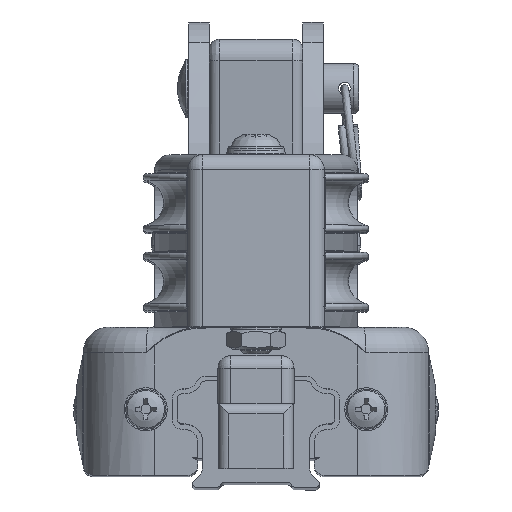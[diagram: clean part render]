
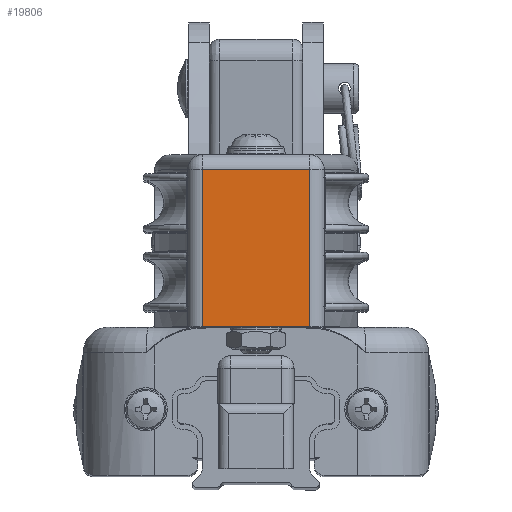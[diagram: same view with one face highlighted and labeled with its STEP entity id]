
A CAD part, top view. The second image highlights one B-rep face of the part: STEP entity #19806.
In plain terms, the highlighted planar face has unit normal (0, 0, 1).
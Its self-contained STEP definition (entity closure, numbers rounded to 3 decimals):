
#1116=LINE('',#29490,#2305);
#1121=LINE('',#29516,#2310);
#1926=LINE('',#39232,#3115);
#1951=LINE('',#39483,#3140);
#2305=VECTOR('',#22855,10.);
#2310=VECTOR('',#22878,10.);
#3115=VECTOR('',#26897,10.);
#3140=VECTOR('',#27018,10.);
#3688=PLANE('',#21916);
#4675=FACE_OUTER_BOUND('',#5863,.T.);
#5863=EDGE_LOOP('',(#17323,#17324,#17325,#17326));
#8049=VERTEX_POINT('',#29488);
#8050=VERTEX_POINT('',#29489);
#8062=VERTEX_POINT('',#29515);
#9468=VERTEX_POINT('',#39230);
#10029=EDGE_CURVE('',#8049,#8050,#1116,.T.);
#10042=EDGE_CURVE('',#8049,#8062,#1121,.T.);
#12223=EDGE_CURVE('',#9468,#8050,#1926,.T.);
#12293=EDGE_CURVE('',#8062,#9468,#1951,.T.);
#17323=ORIENTED_EDGE('',*,*,#10029,.T.);
#17324=ORIENTED_EDGE('',*,*,#12223,.F.);
#17325=ORIENTED_EDGE('',*,*,#12293,.F.);
#17326=ORIENTED_EDGE('',*,*,#10042,.F.);
#19806=ADVANCED_FACE('',(#4675),#3688,.T.);
#21916=AXIS2_PLACEMENT_3D('',#39482,#27016,#27017);
#22855=DIRECTION('',(0.,1.,0.));
#22878=DIRECTION('',(-1.,0.,0.));
#26897=DIRECTION('',(1.,0.,0.));
#27016=DIRECTION('center_axis',(0.,0.,
1.));
#27017=DIRECTION('ref_axis',(0.,1.,0.));
#27018=DIRECTION('',(0.,1.,0.));
#29488=CARTESIAN_POINT('',(10.6,31.7,130.));
#29489=CARTESIAN_POINT('',(10.6,62.7,130.));
#29490=CARTESIAN_POINT('',(10.6,31.7,130.));
#29515=CARTESIAN_POINT('',(-10.6,31.7,130.));
#29516=CARTESIAN_POINT('',(10.6,31.7,130.));
#39230=CARTESIAN_POINT('',(-10.6,62.7,130.));
#39232=CARTESIAN_POINT('',(0.,62.7,130.));
#39482=CARTESIAN_POINT('Origin',(0.,32.7,
130.));
#39483=CARTESIAN_POINT('',(-10.6,31.7,130.));
